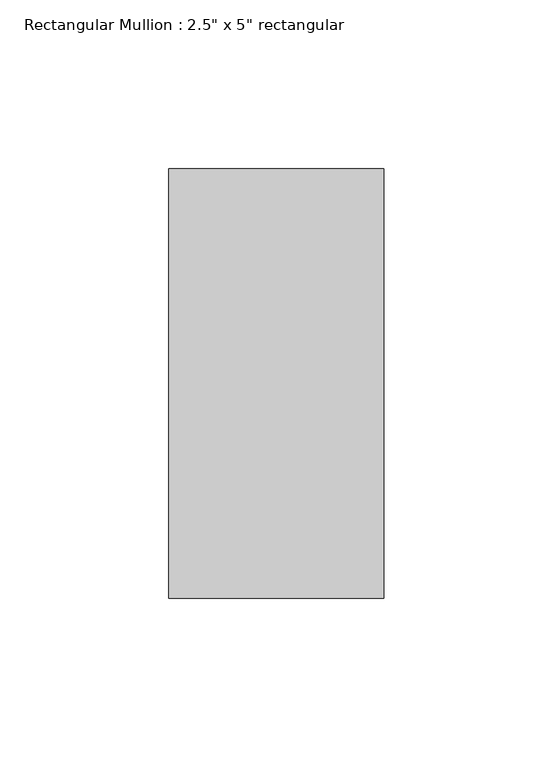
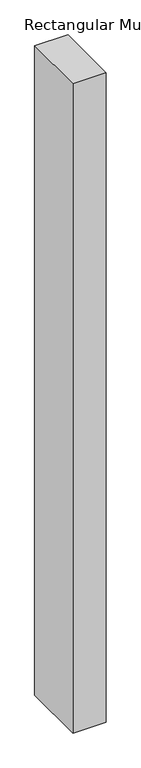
"""IFC4 building model written with IfcOpenShell, lengths in millimetres: member geometry."""

from ifc_helpers import new_model, si_unit, frame, origin, place, context, project, spatial, polyline, outline, extrude, source, transform, mapped, element, save


def member_51997095(model_context):
    return source(origin(), model_context, "Body", "SweptSolid", [
        extrude(outline(polyline([(0.0, 63.5), (0.0, -63.5), (-63.5, -63.5), (-63.5, 63.5), (0.0, 63.5)])), frame((0.0, 0.0, -1314.45), z_axis=(0.0, 0.0, 1.0), x_axis=(1.0, 0.0, 0.0)), (0.0, 0.0, 1.0), 1314.45),
    ])


if __name__ == "__main__":
    model = new_model("IFC4")
    model_context = context("Model", 3, world=origin())
    ifc_project = project(units=[si_unit("LENGTHUNIT", "METRE", prefix="MILLI")], contexts=[model_context])
    site = spatial("IfcSite", under=ifc_project)
    building = spatial("IfcBuilding", under=site)
    placement = place(None, origin())
    member_shape = member_51997095(model_context)
    element("IfcMember", 1, ObjectType="Rectangular Mullion : 2.5\" x 5\" rectangular", at=placement, inside=building, context=model_context, shape_type="MappedRepresentation", body=[
        mapped(member_shape, transform((0.0, 0.0, 0.0), x_axis=(1.0, 0.0, 0.0), y_axis=(0.0, 1.0, 0.0), z_axis=(0.0, 0.0, 1.0))),
    ])
    save(model, "model.ifc")
